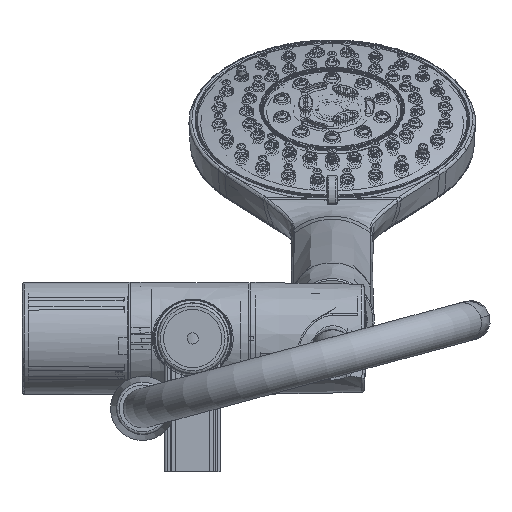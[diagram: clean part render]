
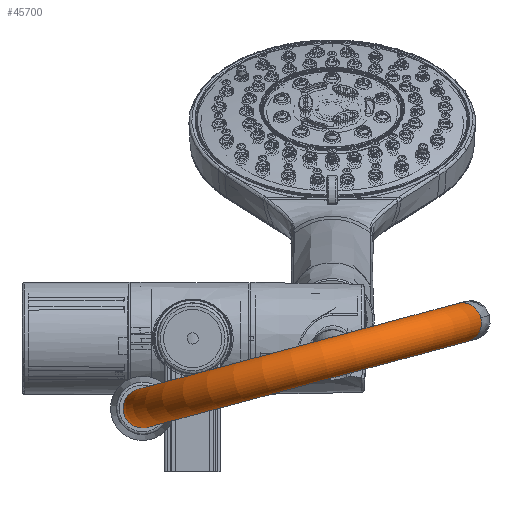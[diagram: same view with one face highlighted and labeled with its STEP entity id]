
A CAD part, front view. The second image highlights one B-rep face of the part: STEP entity #45700.
In plain terms, the highlighted toroidal (fillet/blend) face has major radius 60.26 mm and minor radius 7 mm.
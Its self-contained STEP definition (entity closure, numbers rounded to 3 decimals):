
#1202=TOROIDAL_SURFACE('',#50620,60.26,7.);
#11352=FACE_OUTER_BOUND('',#14426,.T.);
#14426=EDGE_LOOP('',(#42030,#42031,#42032,#42033,#42034,#42035));
#16892=CIRCLE('',#50619,7.);
#16893=CIRCLE('',#50621,7.);
#16894=CIRCLE('',#50622,53.26);
#16895=CIRCLE('',#50623,7.);
#16896=CIRCLE('',#50624,7.);
#21460=VERTEX_POINT('',#168598);
#21461=VERTEX_POINT('',#168599);
#21462=VERTEX_POINT('',#168615);
#21463=VERTEX_POINT('',#168617);
#28320=EDGE_CURVE('',#21460,#21461,#16892,.T.);
#28323=EDGE_CURVE('',#21461,#21460,#16893,.T.);
#28324=EDGE_CURVE('',#21461,#21462,#16894,.T.);
#28325=EDGE_CURVE('',#21462,#21463,#16895,.T.);
#28326=EDGE_CURVE('',#21463,#21462,#16896,.T.);
#42030=ORIENTED_EDGE('',*,*,#28323,.F.);
#42031=ORIENTED_EDGE('',*,*,#28324,.T.);
#42032=ORIENTED_EDGE('',*,*,#28325,.T.);
#42033=ORIENTED_EDGE('',*,*,#28326,.T.);
#42034=ORIENTED_EDGE('',*,*,#28324,.F.);
#42035=ORIENTED_EDGE('',*,*,#28320,.F.);
#45700=ADVANCED_FACE('',(#11352),#1202,.T.);
#50619=AXIS2_PLACEMENT_3D('',#168600,#62629,#62630);
#50620=AXIS2_PLACEMENT_3D('',#168613,#62631,#62632);
#50621=AXIS2_PLACEMENT_3D('',#168614,#62633,#62634);
#50622=AXIS2_PLACEMENT_3D('',#168616,#62635,#62636);
#50623=AXIS2_PLACEMENT_3D('',#168618,#62637,#62638);
#50624=AXIS2_PLACEMENT_3D('',#168619,#62639,#62640);
#62629=DIRECTION('center_axis',(0.286,0.955,0.077));
#62630=DIRECTION('ref_axis',(0.922,-0.297,0.248));
#62631=DIRECTION('center_axis',(-0.259,0.,
0.966));
#62632=DIRECTION('ref_axis',(0.966,0.,0.259));
#62633=DIRECTION('center_axis',(0.286,0.955,0.077));
#62634=DIRECTION('ref_axis',(-0.922,0.297,-0.248));
#62635=DIRECTION('center_axis',(0.259,0.,
-0.966));
#62636=DIRECTION('ref_axis',(0.966,0.,0.259));
#62637=DIRECTION('center_axis',(0.,-1.,0.));
#62638=DIRECTION('ref_axis',(-0.966,0.,-0.259));
#62639=DIRECTION('center_axis',(0.,-1.,0.));
#62640=DIRECTION('ref_axis',(-0.966,0.,-0.259));
#168598=CARTESIAN_POINT('',(70.707,484.502,39.151));
#168599=CARTESIAN_POINT('',(57.794,488.653,35.685));
#168600=CARTESIAN_POINT('Origin',(64.25,486.577,37.418));
#168613=CARTESIAN_POINT('Origin',(8.668,504.445,22.499));
#168614=CARTESIAN_POINT('Origin',(64.25,486.577,37.418));
#168615=CARTESIAN_POINT('',(-42.771,504.445,8.692));
#168616=CARTESIAN_POINT('Origin',(8.668,504.445,22.499));
#168617=CARTESIAN_POINT('',(-56.293,504.445,5.062));
#168618=CARTESIAN_POINT('Origin',(-49.532,504.445,6.877));
#168619=CARTESIAN_POINT('Origin',(-49.532,504.445,6.877));
